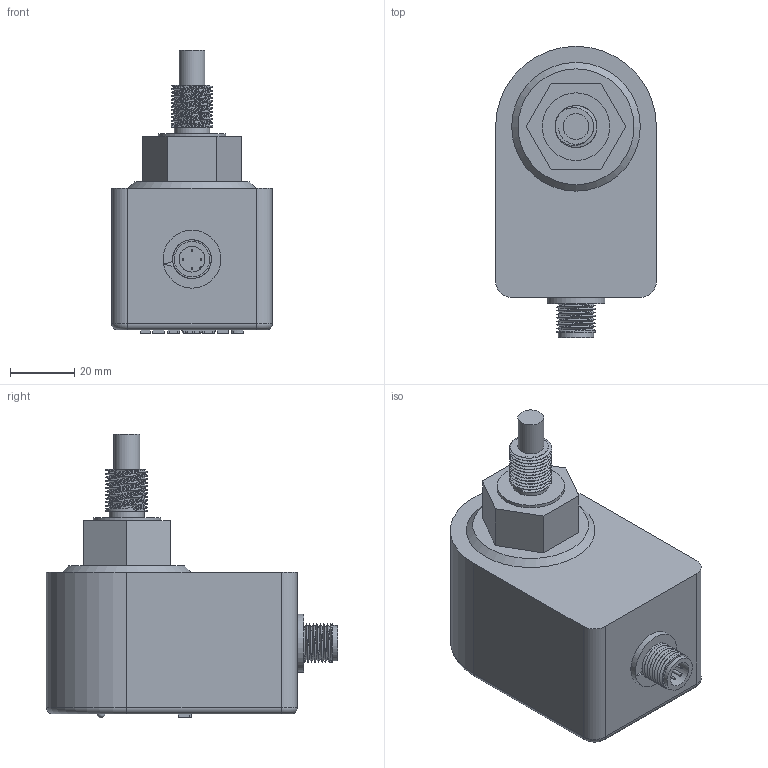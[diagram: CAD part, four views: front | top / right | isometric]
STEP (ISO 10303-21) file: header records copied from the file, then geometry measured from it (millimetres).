
FILE_DESCRIPTION(/* description */ (''),/* implementation_level */ '2;1');
FILE_NAME(/* name */ 'PLSX-1-4G-AN6D-SC.stp',/* time_stamp */ '2022-06-15T11:40:21+08:00',/* author */ (''),/* organization */ (''),/* preprocessor_version */ 'ST-DEVELOPER v16',/* originating_system */ 'SIEMENS PLM Software NX 10.0',/* authorisation */ '');
FILE_SCHEMA (('CONFIG_CONTROL_DESIGN'));
Length unit declared in the file: millimetre
Products named in the file (1): PLSX-G1-4-SC
Bounding box: 50 x 90.5 x 88.25 mm (x, y, z)
Volume: 173583.7 mm3; surface area: 21778 mm2
Topology: 1 solids, 1 shells, 158 faces, 390 edges, 259 vertices
Faces by surface type: plane 103, cylinder 23, extrusion 16, sphere 6, bspline 5, torus 3, cone 2
Full cylindrical faces by diameter (mm): 0.6 x4, 3 x1, 8 x2, 11 x2, 18 x1, 21 x1
Entity records: 8096 total; most frequent: CARTESIAN_POINT 4716, ORIENTED_EDGE 724, DIRECTION 526, EDGE_CURVE 362, VERTEX_POINT 250, EDGE_LOOP 202, B_SPLINE_CURVE_WITH_KNOTS 200, AXIS2_PLACEMENT_3D 194
